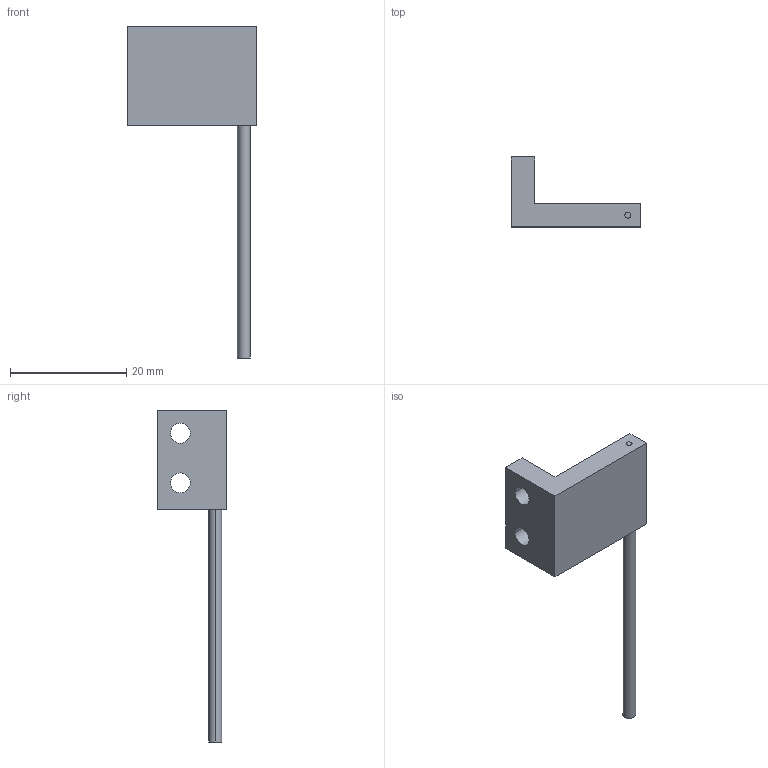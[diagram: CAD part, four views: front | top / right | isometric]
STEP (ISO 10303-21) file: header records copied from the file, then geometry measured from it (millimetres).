
FILE_DESCRIPTION (( 'STEP AP214' ), '1' );
FILE_NAME ('FTLU2-310-10R.STEP', '2019-06-18T02:24:07', ( '' ), ( '' ), 'SwSTEP 2.0', 'SolidWorks 2018', '' );
FILE_SCHEMA (( 'AUTOMOTIVE_DESIGN' ));
Length unit declared in the file: millimetre
Products named in the file (1): FTLU2-310-10R
Bounding box: 22.2 x 12 x 57 mm (x, y, z)
Volume: 2133 mm3; surface area: 1730 mm2
Topology: 1 solids, 1 shells, 17 faces, 40 edges, 28 vertices
Faces by surface type: plane 11, cylinder 6
Entity records: 731 total; most frequent: DIRECTION 92, CARTESIAN_POINT 86, ORIENTED_EDGE 80, EDGE_CURVE 40, AXIS2_PLACEMENT_3D 34, VERTEX_POINT 28, LINE 24, VECTOR 24
